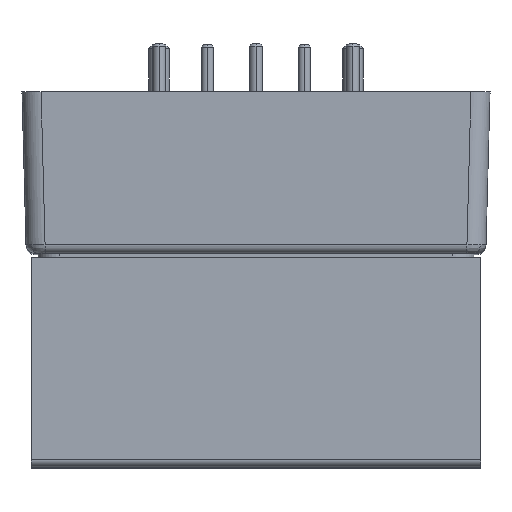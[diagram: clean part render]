
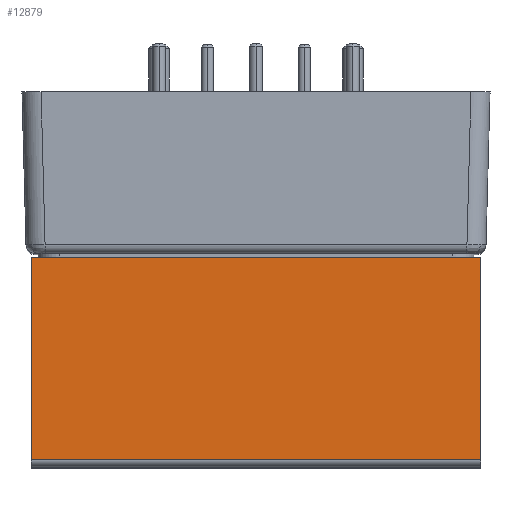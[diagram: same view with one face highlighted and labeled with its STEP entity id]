
A CAD part, top view. The second image highlights one B-rep face of the part: STEP entity #12879.
In plain terms, the highlighted planar face has unit normal (0, -0.006, 1).
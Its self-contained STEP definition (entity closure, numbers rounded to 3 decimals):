
#1927 = CARTESIAN_POINT ( 'NONE',  ( 17.685, -13., 28.955 ) ) ;
#2014 = VECTOR ( 'NONE', #7065, 1000. ) ;
#4265 = VERTEX_POINT ( 'NONE', #14531 ) ;
#4509 = AXIS2_PLACEMENT_3D ( 'NONE', #7509, #4738, #6190 ) ;
#4573 = VERTEX_POINT ( 'NONE', #8174 ) ;
#4738 = DIRECTION ( 'NONE',  ( 0., -0.006, 1. ) ) ;
#4739 = ORIENTED_EDGE ( 'NONE', *, *, #9901, .F. ) ;
#5097 = LINE ( 'NONE', #5132, #8497 ) ;
#5132 = CARTESIAN_POINT ( 'NONE',  ( -17.685, -28.914, 28.855 ) ) ;
#5307 = VERTEX_POINT ( 'NONE', #11650 ) ;
#6051 = EDGE_CURVE ( 'NONE', #4265, #5307, #10065, .T. ) ;
#6190 = DIRECTION ( 'NONE',  ( 0., 1., 0.006 ) ) ;
#6565 = VERTEX_POINT ( 'NONE', #14935 ) ;
#6737 = EDGE_LOOP ( 'NONE', ( #14650, #4739, #8373, #13911 ) ) ;
#7065 = DIRECTION ( 'NONE',  ( 1., 0., 0. ) ) ;
#7509 = CARTESIAN_POINT ( 'NONE',  ( -17.685, -13., 28.955 ) ) ;
#8174 = CARTESIAN_POINT ( 'NONE',  ( -17.685, -28.914, 28.855 ) ) ;
#8373 = ORIENTED_EDGE ( 'NONE', *, *, #18325, .T. ) ;
#8497 = VECTOR ( 'NONE', #12486, 1000. ) ;
#9901 = EDGE_CURVE ( 'NONE', #6565, #4265, #17412, .T. ) ;
#10065 = LINE ( 'NONE', #1927, #13654 ) ;
#10647 = LINE ( 'NONE', #12272, #12469 ) ;
#11650 = CARTESIAN_POINT ( 'NONE',  ( 17.685, -28.914, 28.855 ) ) ;
#11956 = PLANE ( 'NONE',  #4509 ) ;
#12272 = CARTESIAN_POINT ( 'NONE',  ( -17.685, -13., 28.955 ) ) ;
#12469 = VECTOR ( 'NONE', #18079, 1000. ) ;
#12486 = DIRECTION ( 'NONE',  ( 1., 0., 0. ) ) ;
#12879 = ADVANCED_FACE ( 'NONE', ( #18431 ), #11956, .T. ) ;
#13654 = VECTOR ( 'NONE', #14950, 1000. ) ;
#13911 = ORIENTED_EDGE ( 'NONE', *, *, #15277, .T. ) ;
#14531 = CARTESIAN_POINT ( 'NONE',  ( 17.685, -13., 28.955 ) ) ;
#14650 = ORIENTED_EDGE ( 'NONE', *, *, #6051, .F. ) ;
#14935 = CARTESIAN_POINT ( 'NONE',  ( -17.685, -13., 28.955 ) ) ;
#14950 = DIRECTION ( 'NONE',  ( 0., -1., -0.006 ) ) ;
#15277 = EDGE_CURVE ( 'NONE', #4573, #5307, #5097, .T. ) ;
#17412 = LINE ( 'NONE', #18709, #2014 ) ;
#18079 = DIRECTION ( 'NONE',  ( 0., -1., -0.006 ) ) ;
#18325 = EDGE_CURVE ( 'NONE', #6565, #4573, #10647, .T. ) ;
#18431 = FACE_OUTER_BOUND ( 'NONE', #6737, .T. ) ;
#18709 = CARTESIAN_POINT ( 'NONE',  ( -17.685, -13., 28.955 ) ) ;
